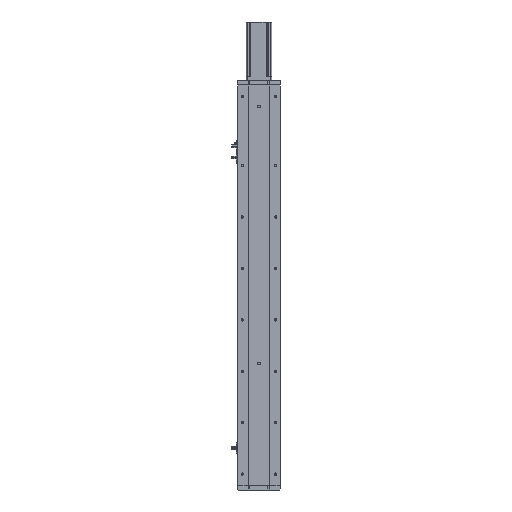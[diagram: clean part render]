
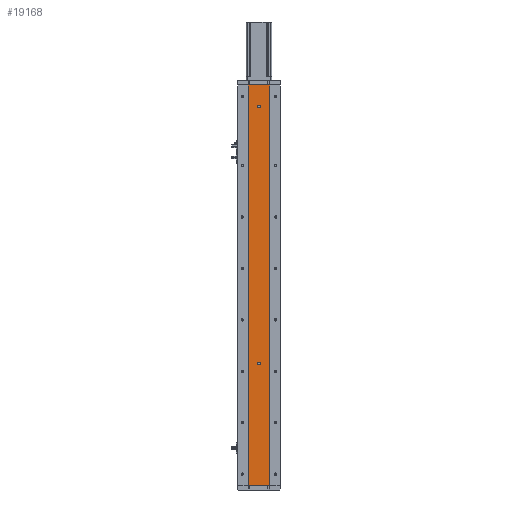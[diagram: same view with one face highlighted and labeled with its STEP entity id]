
A CAD part, left-side view. The second image highlights one B-rep face of the part: STEP entity #19168.
In plain terms, the highlighted planar face has unit normal (-1, 0, 0).
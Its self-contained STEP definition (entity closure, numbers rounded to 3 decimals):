
#621 = CIRCLE ( 'NONE', #22906, 3. ) ;
#733 = ORIENTED_EDGE ( 'NONE', *, *, #21080, .F. ) ;
#990 = PLANE ( 'NONE',  #32793 ) ;
#1598 = EDGE_CURVE ( 'NONE', #16398, #32929, #37872, .T. ) ;
#1653 = EDGE_LOOP ( 'NONE', ( #733, #33071 ) ) ;
#2352 = CARTESIAN_POINT ( 'NONE',  ( -18.926, 0., 885. ) ) ;
#2769 = DIRECTION ( 'NONE',  ( -1., 0., 0. ) ) ;
#2922 = FACE_OUTER_BOUND ( 'NONE', #13959, .T. ) ;
#3058 = AXIS2_PLACEMENT_3D ( 'NONE', #2352, #24534, #5568 ) ;
#3958 = EDGE_CURVE ( 'NONE', #14493, #40254, #28566, .T. ) ;
#4405 = ORIENTED_EDGE ( 'NONE', *, *, #35037, .T. ) ;
#5568 = DIRECTION ( 'NONE',  ( 0., 0., 1. ) ) ;
#6928 = CIRCLE ( 'NONE', #3058, 3. ) ;
#7205 = EDGE_CURVE ( 'NONE', #40254, #32929, #9317, .T. ) ;
#8333 = EDGE_CURVE ( 'NONE', #25019, #25058, #621, .T. ) ;
#9317 = LINE ( 'NONE', #11057, #40981 ) ;
#10638 = AXIS2_PLACEMENT_3D ( 'NONE', #14921, #36983, #18119 ) ;
#11057 = CARTESIAN_POINT ( 'NONE',  ( -18.926, -24.785, 935. ) ) ;
#11365 = FACE_BOUND ( 'NONE', #1653, .T. ) ;
#13664 = VECTOR ( 'NONE', #40097, 1000. ) ;
#13737 = DIRECTION ( 'NONE',  ( 1., 0., 0. ) ) ;
#13959 = EDGE_LOOP ( 'NONE', ( #29971, #23572, #32243, #4405 ) ) ;
#14493 = VERTEX_POINT ( 'NONE', #36157 ) ;
#14844 = CARTESIAN_POINT ( 'NONE',  ( -18.926, 24.785, 935. ) ) ;
#14921 = CARTESIAN_POINT ( 'NONE',  ( -18.926, 0., 285. ) ) ;
#15864 = CARTESIAN_POINT ( 'NONE',  ( -18.926, -24.785, 935. ) ) ;
#16137 = CARTESIAN_POINT ( 'NONE',  ( -18.926, 0., 285. ) ) ;
#16398 = VERTEX_POINT ( 'NONE', #34353 ) ;
#16496 = CARTESIAN_POINT ( 'NONE',  ( -18.926, 0., 888. ) ) ;
#18019 = VERTEX_POINT ( 'NONE', #16496 ) ;
#18029 = CARTESIAN_POINT ( 'NONE',  ( -18.926, 24.785, 0. ) ) ;
#18119 = DIRECTION ( 'NONE',  ( 0., 0., 1. ) ) ;
#18870 = FACE_BOUND ( 'NONE', #22113, .T. ) ;
#19168 = ADVANCED_FACE ( 'NONE', ( #11365, #18870, #2922 ), #990, .F. ) ;
#19326 = DIRECTION ( 'NONE',  ( 0., 0., 1. ) ) ;
#19534 = CIRCLE ( 'NONE', #10638, 3. ) ;
#20507 = DIRECTION ( 'NONE',  ( 0., 0., -1. ) ) ;
#21080 = EDGE_CURVE ( 'NONE', #25058, #25019, #19534, .T. ) ;
#21806 = CARTESIAN_POINT ( 'NONE',  ( -18.926, 0., 885. ) ) ;
#22113 = EDGE_LOOP ( 'NONE', ( #34198, #23270 ) ) ;
#22819 = EDGE_CURVE ( 'NONE', #18019, #39260, #6928, .T. ) ;
#22906 = AXIS2_PLACEMENT_3D ( 'NONE', #16137, #38198, #19326 ) ;
#23270 = ORIENTED_EDGE ( 'NONE', *, *, #30112, .F. ) ;
#23572 = ORIENTED_EDGE ( 'NONE', *, *, #7205, .F. ) ;
#23887 = AXIS2_PLACEMENT_3D ( 'NONE', #21806, #2769, #24967 ) ;
#24534 = DIRECTION ( 'NONE',  ( -1., 0., 0. ) ) ;
#24957 = CARTESIAN_POINT ( 'NONE',  ( -18.926, 0., 288. ) ) ;
#24967 = DIRECTION ( 'NONE',  ( 0., 0., 1. ) ) ;
#25019 = VERTEX_POINT ( 'NONE', #37076 ) ;
#25058 = VERTEX_POINT ( 'NONE', #24957 ) ;
#25334 = CARTESIAN_POINT ( 'NONE',  ( -18.926, 0., 882. ) ) ;
#28032 = CIRCLE ( 'NONE', #23887, 3. ) ;
#28511 = CARTESIAN_POINT ( 'NONE',  ( -18.926, 24.785, 935. ) ) ;
#28566 = LINE ( 'NONE', #14844, #36934 ) ;
#29971 = ORIENTED_EDGE ( 'NONE', *, *, #1598, .T. ) ;
#30112 = EDGE_CURVE ( 'NONE', #39260, #18019, #28032, .T. ) ;
#30470 = DIRECTION ( 'NONE',  ( 0., -1., 0. ) ) ;
#31718 = DIRECTION ( 'NONE',  ( 0., 0., -1. ) ) ;
#32243 = ORIENTED_EDGE ( 'NONE', *, *, #3958, .F. ) ;
#32672 = CARTESIAN_POINT ( 'NONE',  ( -18.926, 24.785, 935. ) ) ;
#32793 = AXIS2_PLACEMENT_3D ( 'NONE', #32672, #13737, #35816 ) ;
#32929 = VERTEX_POINT ( 'NONE', #37694 ) ;
#33071 = ORIENTED_EDGE ( 'NONE', *, *, #8333, .F. ) ;
#34198 = ORIENTED_EDGE ( 'NONE', *, *, #22819, .F. ) ;
#34353 = CARTESIAN_POINT ( 'NONE',  ( -18.926, 24.785, 0. ) ) ;
#35037 = EDGE_CURVE ( 'NONE', #14493, #16398, #36870, .T. ) ;
#35816 = DIRECTION ( 'NONE',  ( 0., 0., -1. ) ) ;
#35896 = VECTOR ( 'NONE', #31718, 1000. ) ;
#36157 = CARTESIAN_POINT ( 'NONE',  ( -18.926, 24.785, 935. ) ) ;
#36870 = LINE ( 'NONE', #28511, #35896 ) ;
#36934 = VECTOR ( 'NONE', #30470, 1000. ) ;
#36983 = DIRECTION ( 'NONE',  ( -1., 0., 0. ) ) ;
#37076 = CARTESIAN_POINT ( 'NONE',  ( -18.926, 0., 282. ) ) ;
#37694 = CARTESIAN_POINT ( 'NONE',  ( -18.926, -24.785, 0. ) ) ;
#37872 = LINE ( 'NONE', #18029, #13664 ) ;
#38198 = DIRECTION ( 'NONE',  ( -1., 0., 0. ) ) ;
#39260 = VERTEX_POINT ( 'NONE', #25334 ) ;
#40097 = DIRECTION ( 'NONE',  ( 0., -1., 0. ) ) ;
#40254 = VERTEX_POINT ( 'NONE', #15864 ) ;
#40981 = VECTOR ( 'NONE', #20507, 1000. ) ;
